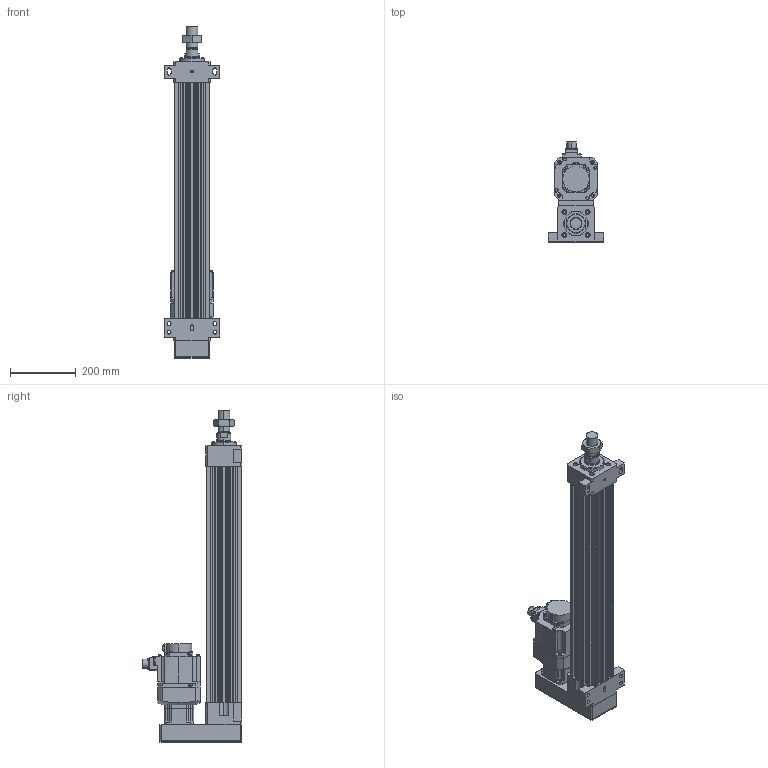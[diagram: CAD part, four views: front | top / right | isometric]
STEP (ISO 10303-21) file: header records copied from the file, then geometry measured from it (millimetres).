
FILE_DESCRIPTION (( 'STEP AP203' ), '1' );
FILE_NAME ('HES110NS(HS)-P550-W010G00-M-FFB.STEP', '2023-01-26T09:20:54', ( 'tms' ), ( '' ), 'SwSTEP 2.0', 'SolidWorks 2013', '' );
FILE_SCHEMA (( 'CONFIG_CONTROL_DESIGN' ));
Length unit declared in the file: millimetre
Products named in the file (8): HES110-P550-G090-FFB; M36X1.5P; AB0901; AB090-003[HG-SR102B]; P0401301004; HES110NS(HS)-P550-W010G00-M-FFB; HES110 ROD M ST550; HG-SR102
Assembly tree (7 placements, depth 3):
  HES110NS(HS)-P550-W010G00-M-FFB
    HES110-P550-G090-FFB
    HES110 ROD M ST550
    M36X1.5P
    AB090-003[HG-SR102B]
      AB0901
      P0401301004
    HG-SR102
Bounding box: 170 x 304.99 x 1013 mm (x, y, z)
Volume: 9021662 mm3; surface area: 1182971.4 mm2
Topology: 4 solids, 11 shells, 1083 faces, 2775 edges, 1806 vertices
Faces by surface type: cylinder 501, plane 500, cone 70, bspline 8, torus 4
Entity records: 34904 total; most frequent: CARTESIAN_POINT 6854, DIRECTION 5982, ORIENTED_EDGE 5502, EDGE_CURVE 2761, AXIS2_PLACEMENT_3D 2205, VERTEX_POINT 1806, LINE 1572, VECTOR 1572
